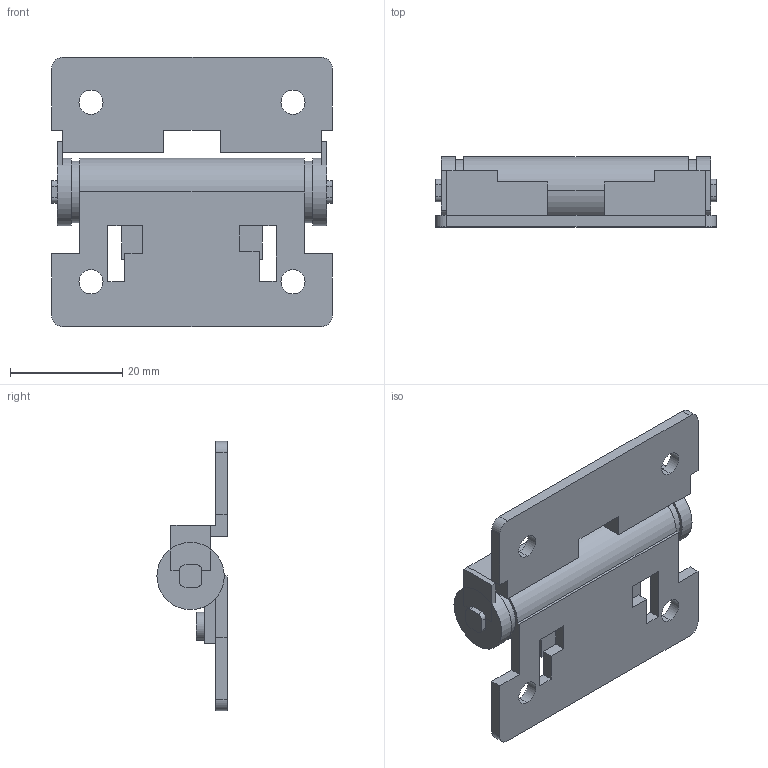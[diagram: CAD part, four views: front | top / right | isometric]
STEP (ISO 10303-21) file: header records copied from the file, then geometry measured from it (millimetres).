
FILE_DESCRIPTION (( 'STEP AP203' ), '1' );
FILE_NAME ('B22-10150.STEP', '2024-10-24T08:34:12', ( '' ), ( '' ), 'SwSTEP 2.0', 'SolidWorks 2021', '' );
FILE_SCHEMA (( 'CONFIG_CONTROL_DESIGN' ));
Length unit declared in the file: millimetre
Products named in the file (4): B22-10150-1; B22-10150-2; B22-10150-3; B22-10150
Assembly tree (3 placements, depth 2):
  B22-10150
    B22-10150-1
    B22-10150-2
    B22-10150-3
Bounding box: 50 x 12.5 x 48 mm (x, y, z)
Volume: 9705.3 mm3; surface area: 8216.9 mm2
Topology: 7 solids, 7 shells, 126 faces, 323 edges, 214 vertices
Faces by surface type: plane 83, cylinder 43
Entity records: 4265 total; most frequent: DIRECTION 675, CARTESIAN_POINT 669, ORIENTED_EDGE 646, EDGE_CURVE 323, VECTOR 235, LINE 235, AXIS2_PLACEMENT_3D 220, VERTEX_POINT 214
